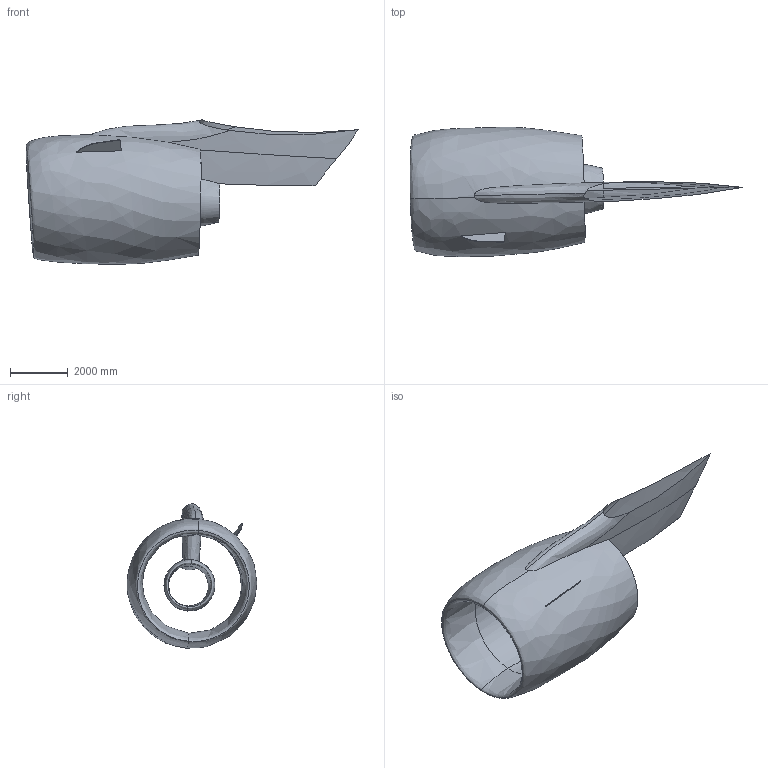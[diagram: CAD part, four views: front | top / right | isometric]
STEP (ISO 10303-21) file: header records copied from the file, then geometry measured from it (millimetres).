
FILE_DESCRIPTION(('CATIA V5 STEP Exchange'),'2;1');
FILE_NAME('C:\Users\schm_fs\Documents\Projekte\Adamant\Austausch_Gondelgeometrie_Extern\GEO4NASA\NACuhbrDLR_20250616.stp','2025-06-16T09:37:02+00:00',('none'),('none'),'CATIA Version 5-6 Release 2018 SP4 HF11','CATIA V5 STEP AP203','none');
FILE_SCHEMA(('CONFIG_CONTROL_DESIGN'));
Length unit declared in the file: millimetre
Products named in the file (1): NACuhbrDLR
Bounding box: 11460.79 x 4468.46 x 4983.9 mm (x, y, z)
Surface area: 185319644.3 mm2 (no closed solid volume)
Topology: 0 solids, 5 shells, 42 faces, 142 edges, 99 vertices
Faces by surface type: bspline 24, revolution 10, plane 5, cylinder 2, extrusion 1
Entity records: 9508 total; most frequent: CARTESIAN_POINT 8576, ORIENTED_EDGE 222, EDGE_CURVE 142, B_SPLINE_CURVE_WITH_KNOTS 127, VERTEX_POINT 99, DIRECTION 51, EDGE_LOOP 43, ADVANCED_FACE 42
